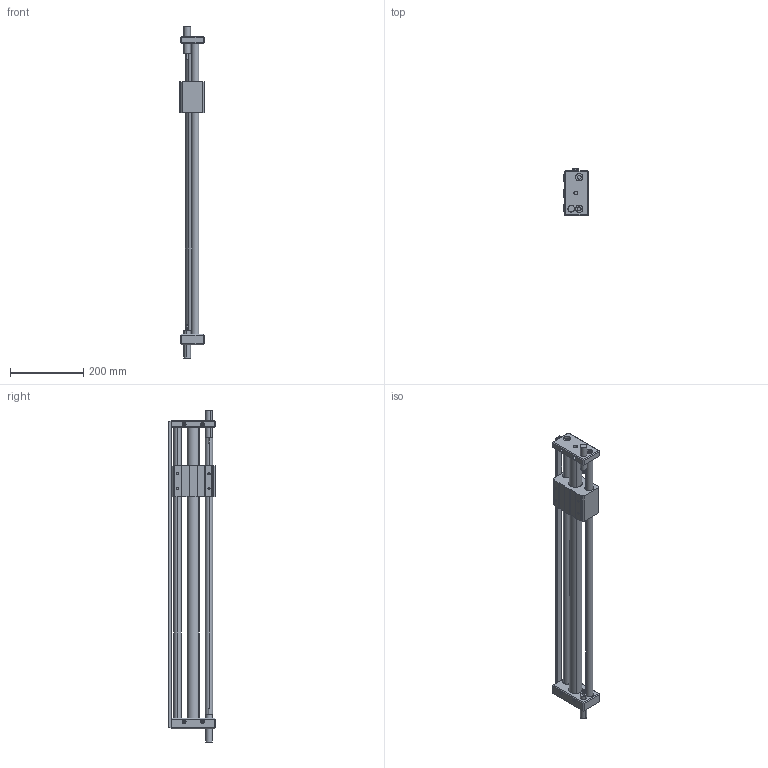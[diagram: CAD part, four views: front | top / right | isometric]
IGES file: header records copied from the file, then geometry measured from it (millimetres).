
Start section: SolidWorks IGES file using analytic representation for surfaces
Global section: file name: D:\Documents de SGA\Pieces 2D et 3D\GRU\iges\GRU 32.700.IGS; native system: SolidWorks 2010; preprocessor: SolidWorks 2010; author: SGA; date: 111216.135010; units: millimetre
Bounding box: 66 x 129.19 x 908.84 mm (x, y, z)
Surface area: 375322.4 mm2 (no closed solid volume)
Topology: 0 solids, 0 shells, 246 faces, 3800 edges, 3800 vertices
Faces by surface type: bspline 126, revolution 120
